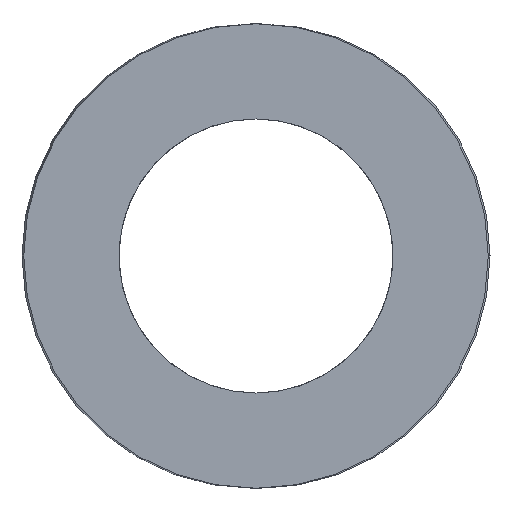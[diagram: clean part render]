
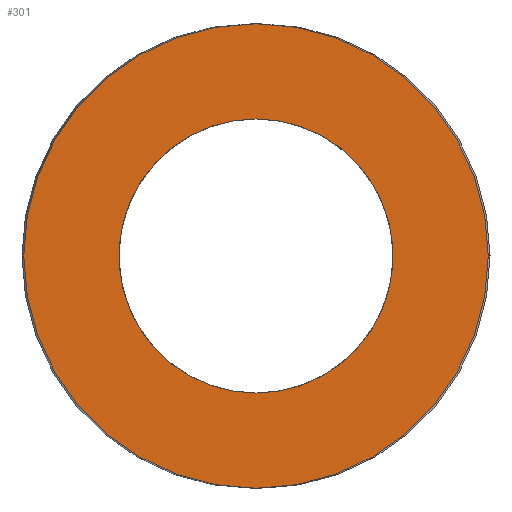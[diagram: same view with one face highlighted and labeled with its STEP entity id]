
A CAD part, left-side view. The second image highlights one B-rep face of the part: STEP entity #301.
In plain terms, the highlighted planar face has unit normal (-1, 0, 0).
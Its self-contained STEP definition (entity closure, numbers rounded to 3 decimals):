
#63=CARTESIAN_POINT('Vertex',(0.,6.1,0.)) ;
#77=CARTESIAN_POINT('Vertex',(0.,-6.1,0.)) ;
#80=CARTESIAN_POINT('Axis2P3D Location',(0.,0.,0.)) ;
#97=CARTESIAN_POINT('Axis2P3D Location',(0.,0.,0.)) ;
#232=CARTESIAN_POINT('Axis2P3D Location',(0.,3.05,0.)) ;
#242=CARTESIAN_POINT('Control Point',(0.,0.,-3.6)) ;
#243=CARTESIAN_POINT('Control Point',(0.,0.372,-3.6)) ;
#244=CARTESIAN_POINT('Control Point',(0.,0.744,-3.552)) ;
#245=CARTESIAN_POINT('Control Point',(0.,1.107,-3.456)) ;
#246=CARTESIAN_POINT('Control Point',(0.,1.801,-3.172)) ;
#247=CARTESIAN_POINT('Control Point',(0.,2.4,-2.722)) ;
#248=CARTESIAN_POINT('Control Point',(0.,2.669,-2.459)) ;
#249=CARTESIAN_POINT('Control Point',(0.,3.133,-1.869)) ;
#250=CARTESIAN_POINT('Control Point',(0.,3.431,-1.182)) ;
#251=CARTESIAN_POINT('Control Point',(0.,3.535,-0.82)) ;
#252=CARTESIAN_POINT('Control Point',(0.,3.647,-0.079)) ;
#253=CARTESIAN_POINT('Control Point',(0.,3.567,0.667)) ;
#254=CARTESIAN_POINT('Control Point',(0.,3.479,1.032)) ;
#255=CARTESIAN_POINT('Control Point',(0.,3.21,1.732)) ;
#256=CARTESIAN_POINT('Control Point',(0.,2.773,2.341)) ;
#257=CARTESIAN_POINT('Control Point',(0.,2.516,2.615)) ;
#258=CARTESIAN_POINT('Control Point',(0.,1.937,3.092)) ;
#259=CARTESIAN_POINT('Control Point',(0.,1.255,3.405)) ;
#260=CARTESIAN_POINT('Control Point',(0.,0.896,3.517)) ;
#261=CARTESIAN_POINT('Control Point',(0.,0.496,3.586)) ;
#262=CARTESIAN_POINT('Control Point',(0.,0.093,3.599)) ;
#263=CARTESIAN_POINT('Control Point',(0.,0.062,3.6)) ;
#264=CARTESIAN_POINT('Control Point',(0.,0.031,3.6)) ;
#265=CARTESIAN_POINT('Control Point',(0.,0.,3.6)) ;
#266=CARTESIAN_POINT('Vertex',(0.,0.,-3.6)) ;
#268=CARTESIAN_POINT('Vertex',(0.,0.,3.6)) ;
#272=CARTESIAN_POINT('Control Point',(0.,0.,3.6)) ;
#273=CARTESIAN_POINT('Control Point',(0.,-0.372,3.6)) ;
#274=CARTESIAN_POINT('Control Point',(0.,-0.744,3.552)) ;
#275=CARTESIAN_POINT('Control Point',(0.,-1.107,3.456)) ;
#276=CARTESIAN_POINT('Control Point',(0.,-1.801,3.172)) ;
#277=CARTESIAN_POINT('Control Point',(0.,-2.4,2.722)) ;
#278=CARTESIAN_POINT('Control Point',(0.,-2.669,2.459)) ;
#279=CARTESIAN_POINT('Control Point',(0.,-3.133,1.869)) ;
#280=CARTESIAN_POINT('Control Point',(0.,-3.431,1.182)) ;
#281=CARTESIAN_POINT('Control Point',(0.,-3.535,0.82)) ;
#282=CARTESIAN_POINT('Control Point',(0.,-3.647,0.079)) ;
#283=CARTESIAN_POINT('Control Point',(0.,-3.567,-0.667)) ;
#284=CARTESIAN_POINT('Control Point',(0.,-3.479,-1.032)) ;
#285=CARTESIAN_POINT('Control Point',(0.,-3.21,-1.732)) ;
#286=CARTESIAN_POINT('Control Point',(0.,-2.773,-2.341)) ;
#287=CARTESIAN_POINT('Control Point',(0.,-2.516,-2.615)) ;
#288=CARTESIAN_POINT('Control Point',(0.,-1.937,-3.092)) ;
#289=CARTESIAN_POINT('Control Point',(0.,-1.255,-3.405)) ;
#290=CARTESIAN_POINT('Control Point',(0.,-0.896,-3.517)) ;
#291=CARTESIAN_POINT('Control Point',(0.,-0.496,-3.586)) ;
#292=CARTESIAN_POINT('Control Point',(0.,-0.093,-3.599)) ;
#293=CARTESIAN_POINT('Control Point',(0.,-0.062,-3.6)) ;
#294=CARTESIAN_POINT('Control Point',(0.,-0.031,-3.6)) ;
#295=CARTESIAN_POINT('Control Point',(0.,0.,-3.6)) ;
#81=DIRECTION('Axis2P3D Direction',(1.,-0.,0.)) ;
#98=DIRECTION('Axis2P3D Direction',(1.,-0.,0.)) ;
#233=DIRECTION('Axis2P3D Direction',(-1.,0.,0.)) ;
#234=DIRECTION('Axis2P3D XDirection',(0.,1.,0.)) ;
#82=AXIS2_PLACEMENT_3D('Circle Axis2P3D',#80,#81,$) ;
#99=AXIS2_PLACEMENT_3D('Circle Axis2P3D',#97,#98,$) ;
#235=AXIS2_PLACEMENT_3D('Plane Axis2P3D',#232,#233,#234) ;
#238=ORIENTED_EDGE('',*,*,#84,.T.) ;
#239=ORIENTED_EDGE('',*,*,#101,.T.) ;
#298=ORIENTED_EDGE('',*,*,#270,.T.) ;
#299=ORIENTED_EDGE('',*,*,#296,.T.) ;
#300=FACE_BOUND('',#297,.T.) ;
#301=ADVANCED_FACE('392-B13-025',(#240,#300),#236,.T.) ;
#241=B_SPLINE_CURVE_WITH_KNOTS('',5,(#242,#243,#244,#245,#246,#247,#248,#249,#250,#251,#252,#253,#254,#255,#256,#257,#258,#259,#260,#261,#262,#263,#264,#265),.UNSPECIFIED.,.F.,.U.,(6,3,3,3,3,3,3,6),(0.,2.629,5.258,7.887,10.516,13.145,15.774,15.994),.UNSPECIFIED.) ;
#271=B_SPLINE_CURVE_WITH_KNOTS('',5,(#272,#273,#274,#275,#276,#277,#278,#279,#280,#281,#282,#283,#284,#285,#286,#287,#288,#289,#290,#291,#292,#293,#294,#295),.UNSPECIFIED.,.F.,.U.,(6,3,3,3,3,3,3,6),(0.,2.629,5.258,7.887,10.516,13.145,15.774,15.994),.UNSPECIFIED.) ;
#83=CIRCLE('generated circle',#82,6.1) ;
#100=CIRCLE('generated circle',#99,6.1) ;
#84=EDGE_CURVE('',#64,#78,#83,.F.) ;
#101=EDGE_CURVE('',#78,#64,#100,.F.) ;
#270=EDGE_CURVE('',#267,#269,#241,.T.) ;
#296=EDGE_CURVE('',#269,#267,#271,.T.) ;
#237=EDGE_LOOP('',(#238,#239)) ;
#297=EDGE_LOOP('',(#298,#299)) ;
#240=FACE_OUTER_BOUND('',#237,.T.) ;
#236=PLANE('Plane',#235) ;
#64=VERTEX_POINT('',#63) ;
#78=VERTEX_POINT('',#77) ;
#267=VERTEX_POINT('',#266) ;
#269=VERTEX_POINT('',#268) ;
